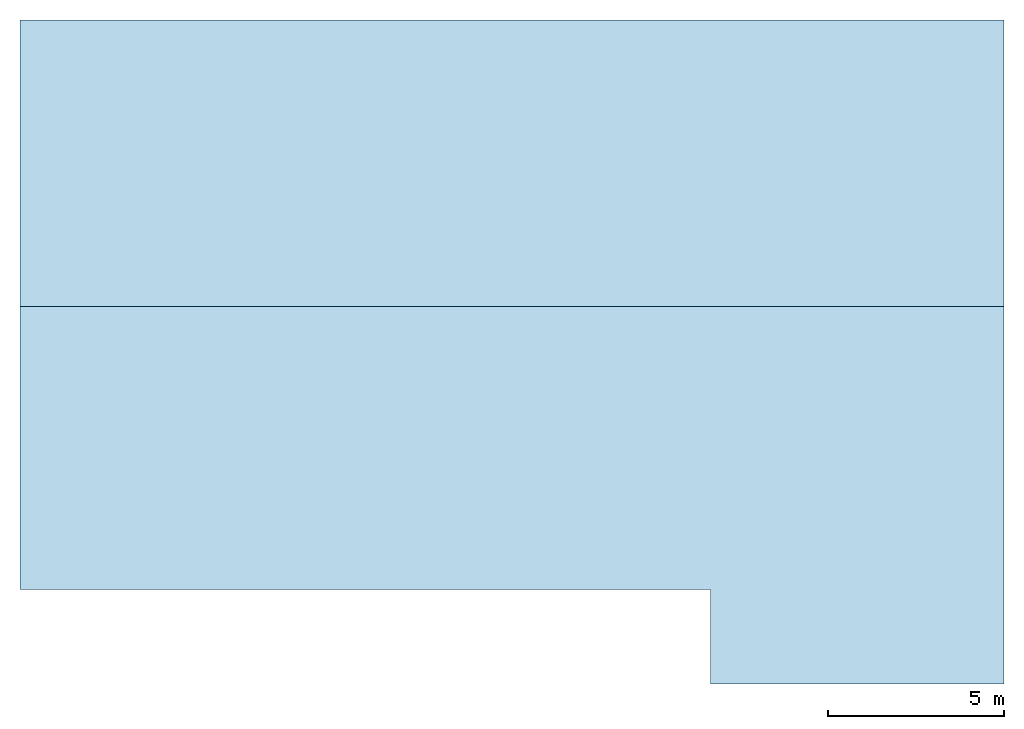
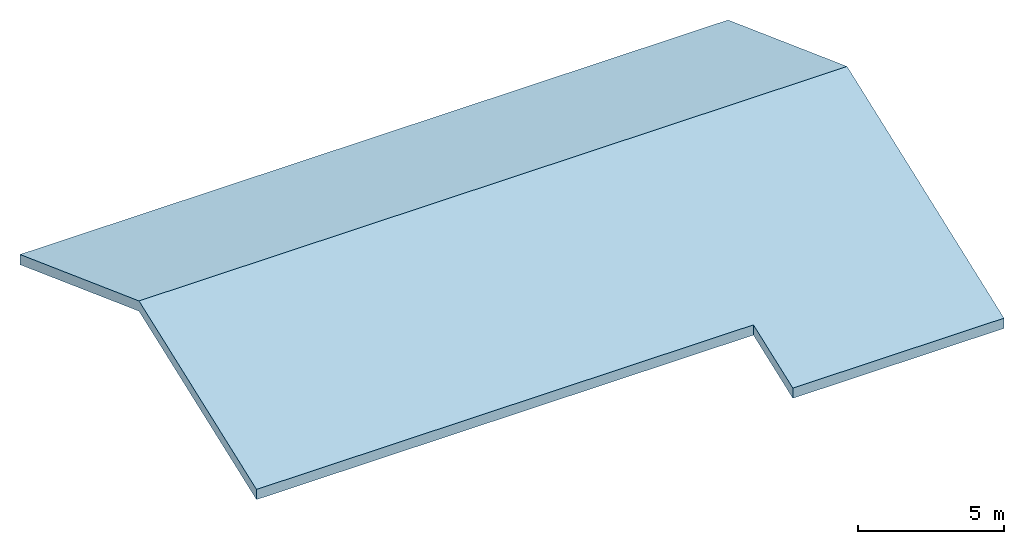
# One storey: 1 roof.
"""IFC2X3 building model written with IfcOpenShell, lengths in millimetres."""

from ifc_helpers import new_model, entity, si_unit, converted_unit, direction, frame, origin, place, context, subcontext, project, spatial, faceted_brep, material, layer, layer_set, type_object, element, save


model = new_model("IFC2X3")

# Units and contexts
model_context = context("Model", 3, precision=0.01, world=origin(), true_north=direction((6.123031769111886e-17, 1.0)))
body_context = subcontext(model_context, "Body", "Model", "MODEL_VIEW")
ifc_project = project(units=[si_unit("LENGTHUNIT", "METRE", prefix="MILLI"), converted_unit("PLANEANGLEUNIT", "DEGREE", entity("IfcPlaneAngleMeasure", 0.017453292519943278), si_unit("PLANEANGLEUNIT", "RADIAN"), dimensions=[0, 0, 0, 0, 0, 0, 0]), si_unit("AREAUNIT", "SQUARE_METRE")], contexts=[model_context])

# Site, building, storey
site_placement = place(None, frame((7776.576483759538, 118.3519876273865, 0.0)))
site = spatial("IfcSite", under=ifc_project, at=site_placement, Name="Default", CompositionType="ELEMENT")
building_placement = place(site_placement, origin())
building = spatial("IfcBuilding", under=site, at=building_placement, Name="Bygning (endres i Project Information)", CompositionType="ELEMENT")
storey_placement = place(building_placement, frame((0.0, 0.0, 24000.0)))
storey = spatial("IfcBuildingStorey", under=building, at=storey_placement, Name="Plan Tak Høy", CompositionType="ELEMENT", Elevation=23999.999999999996)

# Roof
ifc_material = material(Name="Default Roof")
ifc_layer = layer(ifc_material, 400.0)
ifc_layer_set = layer_set([ifc_layer], Name="Basic Roof:Generic - 400mm")
type_product = type_object("IfcTypeProduct", Name="Basic Roof:Generic - 400mm")
roof_placement = place(storey_placement, frame((12374.00137486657, 16197.75730578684, -2206.2111801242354)))
element("IfcRoof", 1, at=roof_placement, inside=storey, type_object=type_product, material=ifc_layer_set, Name="Basic Roof:Generic - 400mm", ObjectType="Basic Roof:Generic - 400mm", ShapeType="NOTDEFINED", context=body_context, shape_type="Brep", body=[
    faceted_brep([(19650.0, 2700.0, 1006.2111801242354), (0.0, 2700.0, 1006.2111801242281), (0.0, 10750.0, 4006.2111801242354), (28000.0, 10750.0, 4006.211180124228), (28000.0, 0.0, 0.0), (19650.0, 0.0, 0.0), (28000.0, 18900.0, 1006.2111801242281), (0.0, 18900.0, 1006.2111801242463), (0.0, 2700.0, 1433.085125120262), (19650.0, 2700.0, 1433.0851251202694), (19650.0, 0.0, 426.8739449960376), (28000.0, 0.0, 426.87394499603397), (28000.0, 10749.142406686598, 4432.765525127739), (0.0, 10749.142406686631, 4432.765525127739), (28000.0, 18900.0, 1432.4498466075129), (0.0, 18900.0, 1432.449846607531)], [[[0, 1, 2, 3, 4, 5]], [[6, 3, 2, 7]], [[8, 9, 10, 11, 12, 13]], [[14, 15, 13, 12]], [[15, 14, 6, 7]], [[8, 13, 15, 7, 2, 1]], [[9, 8, 1, 0]], [[14, 12, 11, 4, 3, 6]], [[10, 9, 0, 5]], [[11, 10, 5, 4]]]),
])

save(model, "model.ifc")
